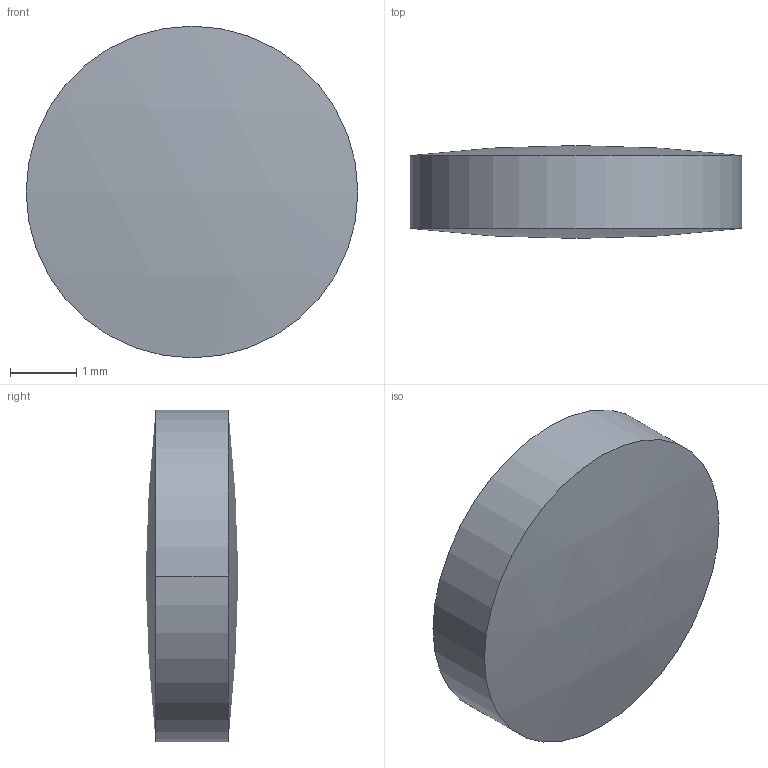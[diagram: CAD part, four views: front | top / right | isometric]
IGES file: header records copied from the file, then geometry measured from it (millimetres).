
Global section: file name: No Iges File Name specified; native system: AutoDesk Inventor R12.0; preprocessor: AutoDesk Inventor Iges Exporter R12.0; author: No Author specified; organization: No Organization specified; date: 20090513.085229; units: millimetre
Bounding box: 5 x 1.4 x 5 mm (x, y, z)
Volume: 24.5 mm3; surface area: 56.7 mm2
Topology: 1 solids, 1 shells, 4 faces, 6 edges, 4 vertices
Faces by surface type: cylinder 2, sphere 2
